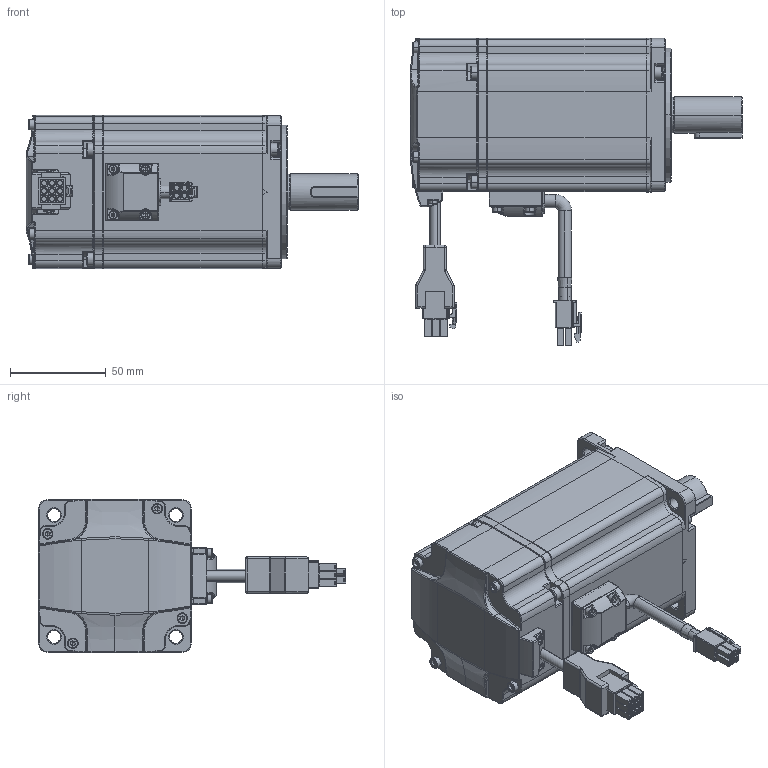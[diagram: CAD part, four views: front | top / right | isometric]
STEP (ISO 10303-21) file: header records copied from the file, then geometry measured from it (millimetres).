
FILE_DESCRIPTION (( 'STEP AP203' ), '1' );
FILE_NAME ('EM3J-10ATA221.STEP', '2023-11-16T01:35:53', ( '' ), ( '' ), 'SwSTEP 2.0', 'SolidWorks 2018', '' );
FILE_SCHEMA (( 'CONFIG_CONTROL_DESIGN' ));
Length unit declared in the file: millimetre
Products named in the file (1): EM3J-10ATA221
Bounding box: 173.5 x 160.49 x 80 mm (x, y, z)
Volume: 363004.8 mm3; surface area: 118113.2 mm2
Topology: 26 solids, 26 shells, 2341 faces, 5792 edges, 3538 vertices
Faces by surface type: plane 1115, cylinder 664, cone 266, torus 150, bspline 97, sphere 49
Entity records: 70803 total; most frequent: CARTESIAN_POINT 15709, DIRECTION 11542, ORIENTED_EDGE 11438, EDGE_CURVE 5719, AXIS2_PLACEMENT_3D 4095, VERTEX_POINT 3538, LINE 3352, VECTOR 3352
